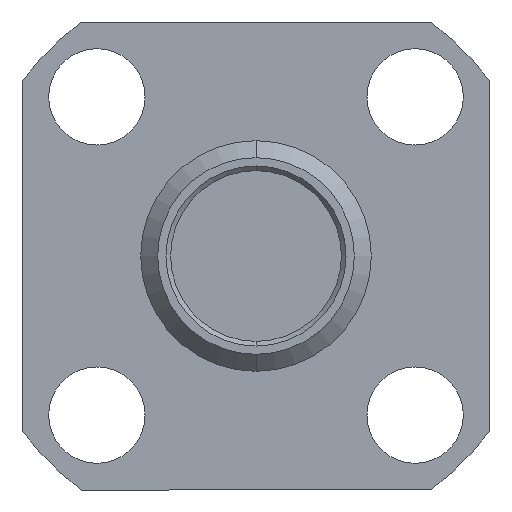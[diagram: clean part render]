
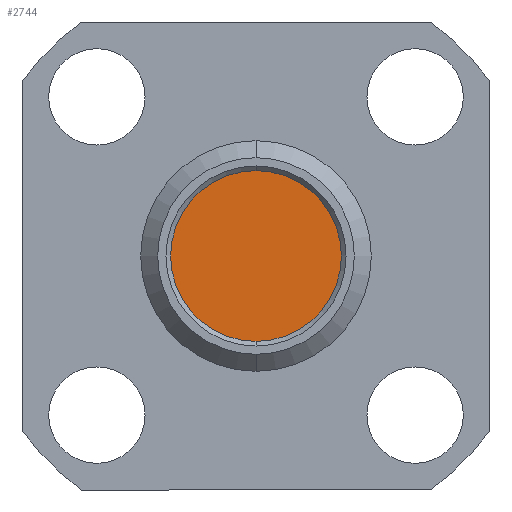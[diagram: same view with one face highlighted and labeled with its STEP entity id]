
A CAD part, left-side view. The second image highlights one B-rep face of the part: STEP entity #2744.
In plain terms, the highlighted planar face has unit normal (-1, 0, 0).
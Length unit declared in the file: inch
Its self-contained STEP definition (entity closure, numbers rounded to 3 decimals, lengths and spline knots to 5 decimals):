
#30 = AXIS2_PLACEMENT_3D ( 'NONE', #2325, #994, #2551 ) ;
#269 = CARTESIAN_POINT ( 'NONE',  ( 0.076, 0., 0. ) ) ;
#272 = ORIENTED_EDGE ( 'NONE', *, *, #1128, .T. ) ;
#304 = VERTEX_POINT ( 'NONE', #1932 ) ;
#441 = PLANE ( 'NONE',  #1104 ) ;
#458 = CARTESIAN_POINT ( 'NONE',  ( 0.076, 0.07987, 0. ) ) ;
#487 = DIRECTION ( 'NONE',  ( 0., 0., 1. ) ) ;
#496 = CIRCLE ( 'NONE', #579, 0.09122 ) ;
#579 = AXIS2_PLACEMENT_3D ( 'NONE', #269, #1827, #487 ) ;
#692 = DIRECTION ( 'NONE',  ( 0., 0., -1. ) ) ;
#994 = DIRECTION ( 'NONE',  ( -1., 0., 0. ) ) ;
#1104 = AXIS2_PLACEMENT_3D ( 'NONE', #458, #2003, #692 ) ;
#1128 = EDGE_CURVE ( 'NONE', #304, #1960, #496, .T. ) ;
#1154 = EDGE_LOOP ( 'NONE', ( #2456, #272 ) ) ;
#1220 = FACE_OUTER_BOUND ( 'NONE', #1154, .T. ) ;
#1303 = CARTESIAN_POINT ( 'NONE',  ( 0.076, 0., 0.09122 ) ) ;
#1590 = CIRCLE ( 'NONE', #30, 0.09122 ) ;
#1827 = DIRECTION ( 'NONE',  ( -1., 0., 0. ) ) ;
#1932 = CARTESIAN_POINT ( 'NONE',  ( 0.076, 0., -0.09122 ) ) ;
#1960 = VERTEX_POINT ( 'NONE', #1303 ) ;
#2003 = DIRECTION ( 'NONE',  ( 1., 0., 0. ) ) ;
#2182 = EDGE_CURVE ( 'NONE', #1960, #304, #1590, .T. ) ;
#2325 = CARTESIAN_POINT ( 'NONE',  ( 0.076, 0., 0. ) ) ;
#2456 = ORIENTED_EDGE ( 'NONE', *, *, #2182, .T. ) ;
#2551 = DIRECTION ( 'NONE',  ( 0., 0., 1. ) ) ;
#2744 = ADVANCED_FACE ( 'NONE', ( #1220 ), #441, .F. ) ;
